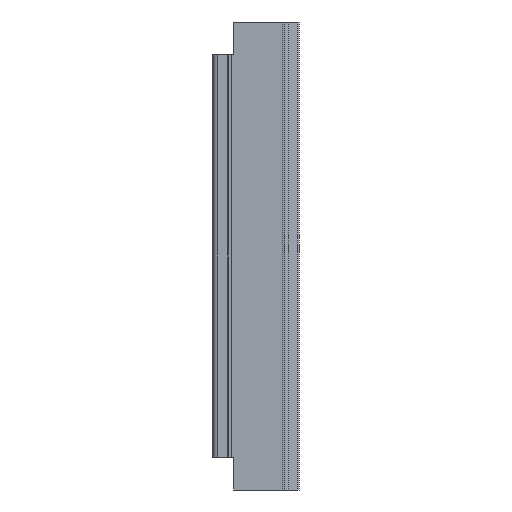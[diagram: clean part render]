
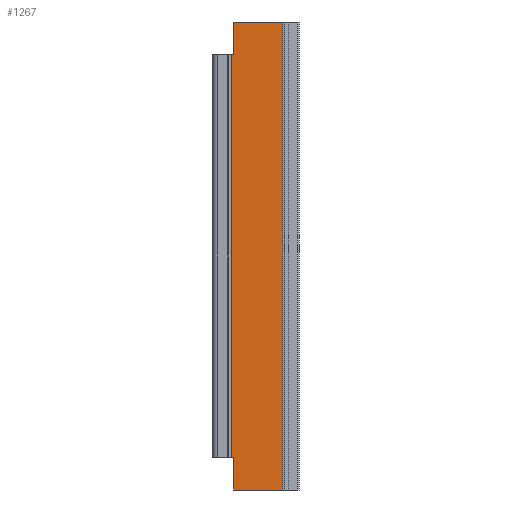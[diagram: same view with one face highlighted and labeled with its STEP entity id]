
A CAD part, left-side view. The second image highlights one B-rep face of the part: STEP entity #1267.
In plain terms, the highlighted planar face has unit normal (-1, 0, 0).
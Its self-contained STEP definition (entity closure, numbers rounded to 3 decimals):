
#23 = FACE_OUTER_BOUND ( 'NONE', #486, .T. ) ;
#81 = CARTESIAN_POINT ( 'NONE',  ( -2.8, -17.7, 518. ) ) ;
#82 = DIRECTION ( 'NONE',  ( 0., 0., -1. ) ) ;
#103 = CARTESIAN_POINT ( 'NONE',  ( -2.8, -17.7, 518. ) ) ;
#104 = DIRECTION ( 'NONE',  ( 0., 0., -1. ) ) ;
#122 = CARTESIAN_POINT ( 'NONE',  ( -2.8, -14.555, 0. ) ) ;
#123 = DIRECTION ( 'NONE',  ( 0., -1., 0. ) ) ;
#164 = PLANE ( 'NONE',  #402 ) ;
#167 = CARTESIAN_POINT ( 'NONE',  ( -2.8, -14.555, 518. ) ) ;
#173 = DIRECTION ( 'NONE',  ( 1., 0., 0. ) ) ;
#174 = DIRECTION ( 'NONE',  ( 0., 1., 0. ) ) ;
#391 = EDGE_CURVE ( 'NONE', #721, #726, #1051, .T. ) ;
#402 = AXIS2_PLACEMENT_3D ( 'NONE', #167, #173, #174 ) ;
#486 = EDGE_LOOP ( 'NONE', ( #518, #519, #520, #521, #522, #523, #524, #525 ) ) ;
#518 = ORIENTED_EDGE ( 'NONE', *, *, #1231, .T. ) ;
#519 = ORIENTED_EDGE ( 'NONE', *, *, #1207, .T. ) ;
#520 = ORIENTED_EDGE ( 'NONE', *, *, #1209, .T. ) ;
#521 = ORIENTED_EDGE ( 'NONE', *, *, #1180, .T. ) ;
#522 = ORIENTED_EDGE ( 'NONE', *, *, #1241, .T. ) ;
#523 = ORIENTED_EDGE ( 'NONE', *, *, #1250, .T. ) ;
#524 = ORIENTED_EDGE ( 'NONE', *, *, #391, .T. ) ;
#525 = ORIENTED_EDGE ( 'NONE', *, *, #1188, .F. ) ;
#720 = VERTEX_POINT ( 'NONE', #845 ) ;
#721 = VERTEX_POINT ( 'NONE', #846 ) ;
#726 = VERTEX_POINT ( 'NONE', #851 ) ;
#727 = VERTEX_POINT ( 'NONE', #852 ) ;
#729 = VERTEX_POINT ( 'NONE', #854 ) ;
#730 = VERTEX_POINT ( 'NONE', #855 ) ;
#731 = VERTEX_POINT ( 'NONE', #856 ) ;
#736 = VERTEX_POINT ( 'NONE', #861 ) ;
#816 = CARTESIAN_POINT ( 'NONE',  ( -2.8, -72.063, 518. ) ) ;
#819 = DIRECTION ( 'NONE',  ( 0., 0., 1. ) ) ;
#845 = CARTESIAN_POINT ( 'NONE',  ( -2.8, -17.7, 0. ) ) ;
#846 = CARTESIAN_POINT ( 'NONE',  ( -2.8, -72.063, 0. ) ) ;
#851 = CARTESIAN_POINT ( 'NONE',  ( -2.8, -72.063, 518. ) ) ;
#852 = CARTESIAN_POINT ( 'NONE',  ( -2.8, -17.7, 518. ) ) ;
#854 = CARTESIAN_POINT ( 'NONE',  ( -2.8, -17.7, 481.5 ) ) ;
#855 = CARTESIAN_POINT ( 'NONE',  ( -2.8, -14.928, 36.5 ) ) ;
#856 = CARTESIAN_POINT ( 'NONE',  ( -2.8, -14.928, 481.5 ) ) ;
#861 = CARTESIAN_POINT ( 'NONE',  ( -2.8, -17.7, 36.5 ) ) ;
#912 = CARTESIAN_POINT ( 'NONE',  ( -2.8, -14.555, 36.5 ) ) ;
#915 = DIRECTION ( 'NONE',  ( 0., -1., 0. ) ) ;
#931 = CARTESIAN_POINT ( 'NONE',  ( -2.8, -14.555, 518. ) ) ;
#932 = DIRECTION ( 'NONE',  ( 0., -1., 0. ) ) ;
#970 = CARTESIAN_POINT ( 'NONE',  ( -2.8, -14.555, 481.5 ) ) ;
#971 = DIRECTION ( 'NONE',  ( 0., 1., 0. ) ) ;
#974 = CARTESIAN_POINT ( 'NONE',  ( -2.8, -14.928, 518. ) ) ;
#975 = DIRECTION ( 'NONE',  ( 0., 0., -1. ) ) ;
#988 = LINE ( 'NONE', #931, #989 ) ;
#989 = VECTOR ( 'NONE', #932, 1000. ) ;
#1012 = VECTOR ( 'NONE', #915, 1000. ) ;
#1024 = LINE ( 'NONE', #912, #1012 ) ;
#1036 = VECTOR ( 'NONE', #819, 1000. ) ;
#1051 = LINE ( 'NONE', #816, #1036 ) ;
#1097 = VECTOR ( 'NONE', #104, 1000. ) ;
#1098 = LINE ( 'NONE', #103, #1097 ) ;
#1105 = VECTOR ( 'NONE', #123, 1000. ) ;
#1106 = LINE ( 'NONE', #122, #1105 ) ;
#1132 = LINE ( 'NONE', #81, #1133 ) ;
#1133 = VECTOR ( 'NONE', #82, 1000. ) ;
#1160 = VECTOR ( 'NONE', #975, 1000. ) ;
#1161 = LINE ( 'NONE', #974, #1160 ) ;
#1164 = VECTOR ( 'NONE', #971, 1000. ) ;
#1166 = LINE ( 'NONE', #970, #1164 ) ;
#1180 = EDGE_CURVE ( 'NONE', #730, #736, #1024, .T. ) ;
#1188 = EDGE_CURVE ( 'NONE', #727, #726, #988, .T. ) ;
#1207 = EDGE_CURVE ( 'NONE', #729, #731, #1166, .T. ) ;
#1209 = EDGE_CURVE ( 'NONE', #731, #730, #1161, .T. ) ;
#1231 = EDGE_CURVE ( 'NONE', #727, #729, #1132, .T. ) ;
#1241 = EDGE_CURVE ( 'NONE', #736, #720, #1098, .T. ) ;
#1250 = EDGE_CURVE ( 'NONE', #720, #721, #1106, .T. ) ;
#1267 = ADVANCED_FACE ( 'NONE', ( #23 ), #164, .F. ) ;
